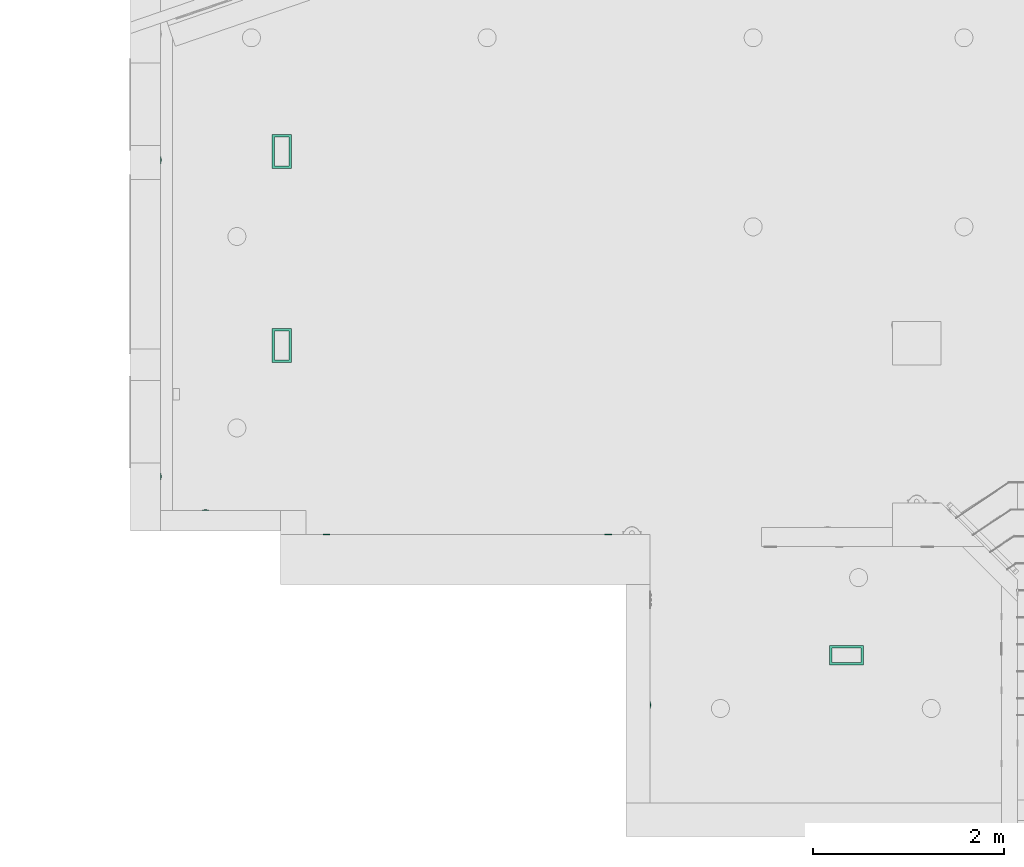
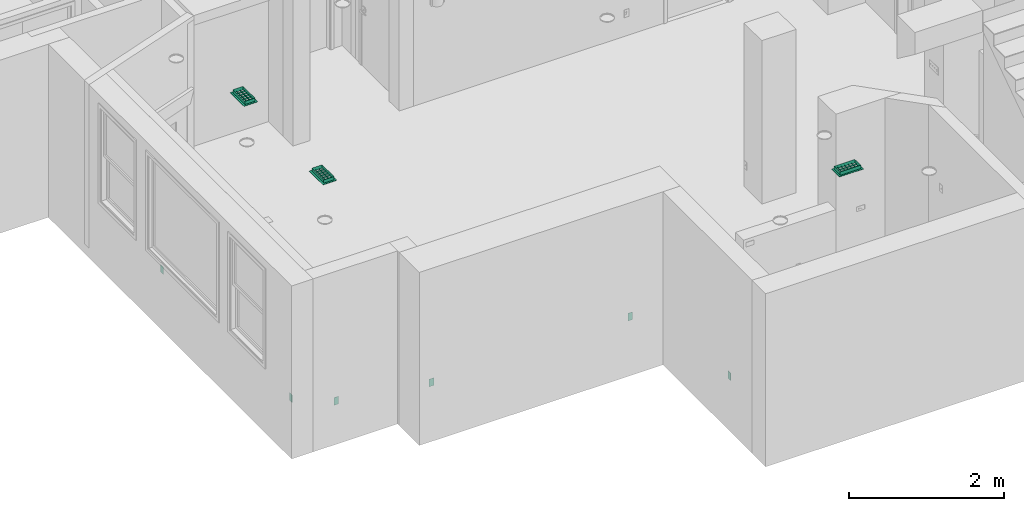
# One storey, part 3 of 48: 6 flow controllers, 3 distribution flow elements.
"""IFC2X3 building model written with IfcOpenShell, lengths in inches."""

import ifcopenshell
import ifcopenshell.guid

model = None  # the IFC model being written
_history = None  # IfcOwnerHistory: only IFC2X3 demands one
_inside = {}  # id of a spatial element -> (the spatial element, [elements in it])
_under = {}  # id of a project, library or spatial element -> (it, [spatial elements below it])
_declared = {}  # id of a project -> (the project, [libraries it declares])
_typed = {}  # id of a type object -> (the type object, [elements of that type])
_made_of = {}  # id of a material, layer set ... -> (it, [elements and type objects made of it])


def new_model(schema):
    """Start an empty IFC model of exactly this schema.

    Asked for "IFC4X3", IfcOpenShell would pick the latest addendum, in which some entities
    have other attributes; the version numbers below select the first issue.
    IFC2X3 requires an IfcOwnerHistory on every rooted entity: one is made here for all.
    """
    global model, _history
    if schema == "IFC4X3":
        model = ifcopenshell.file(schema_version=(4, 3, 0, 0))
    else:
        model = ifcopenshell.file(schema=schema)
    _inside.clear()
    _under.clear()
    _declared.clear()
    _typed.clear()
    _made_of.clear()
    _history = None
    if model.schema == "IFC2X3":
        org = make("IfcOrganization", Name="unknown")
        user = make(
            "IfcPersonAndOrganization",
            ThePerson=make("IfcPerson", FamilyName="unknown"),
            TheOrganization=org,
        )
        app = make(
            "IfcApplication",
            ApplicationDeveloper=org,
            Version="unknown",
            ApplicationFullName="unknown",
            ApplicationIdentifier="unknown",
        )
        _history = make(
            "IfcOwnerHistory",
            OwningUser=user,
            OwningApplication=app,
            ChangeAction="ADDED",
            CreationDate=0,
        )
    return model


def make(cls, **values):
    """One entity of the class cls with the attributes given. An attribute that is None is left unset."""
    return model.create_entity(
        cls, **{name: value for name, value in values.items() if value is not None}
    )


def entity(cls, *values):
    """Any entity or typed value of the class cls, its attributes in the order of the schema. None: left unset."""
    e = model.create_entity(cls)
    for i, value in enumerate(values):
        if value is not None:
            e[i] = value
    return e


def rooted(cls, **values):
    """An entity with a GlobalId (a new one), such as an element, a storey or a relation."""
    return make(cls, GlobalId=ifcopenshell.guid.new(), OwnerHistory=_history, **values)


def si_unit(unit_type, name, prefix=None):
    """IfcSIUnit, for example si_unit("LENGTHUNIT", "METRE", prefix="MILLI")."""
    return make("IfcSIUnit", UnitType=unit_type, Prefix=prefix, Name=name)


def converted_unit(unit_type, name, factor, base, dimensions=None, offset=None):
    """IfcConversionBasedUnit, such as the inch: factor (a typed value) times the base unit."""
    return make(
        "IfcConversionBasedUnit"
        if offset is None
        else "IfcConversionBasedUnitWithOffset",
        ConversionOffset=offset,
        Dimensions=None
        if dimensions is None
        else entity("IfcDimensionalExponents", *dimensions),
        UnitType=unit_type,
        Name=name,
        ConversionFactor=make(
            "IfcMeasureWithUnit", ValueComponent=factor, UnitComponent=base
        ),
    )


def derived_unit(unit_type, elements):
    """IfcDerivedUnit: a product of units, each with its exponent."""
    return make(
        "IfcDerivedUnit",
        Elements=[
            make("IfcDerivedUnitElement", Unit=unit, Exponent=power)
            for unit, power in elements
        ],
        UnitType=unit_type,
    )


def money_unit(currency):
    """IfcMonetaryUnit."""
    return make("IfcMonetaryUnit", Currency=currency)


def assignment(units):
    """IfcUnitAssignment: the units of a project."""
    return None if units is None else make("IfcUnitAssignment", Units=units)


def point(xyz):
    """IfcCartesianPoint."""
    return None if xyz is None else make("IfcCartesianPoint", Coordinates=xyz)


def direction(xyz):
    """IfcDirection."""
    return None if xyz is None else make("IfcDirection", DirectionRatios=xyz)


def frame(location, z_axis=None, x_axis=None):
    """IfcAxis2Placement3D, a coordinate frame: its origin and axes. An axis left out is left unset."""
    return make(
        "IfcAxis2Placement3D",
        Location=point(location),
        Axis=direction(z_axis),
        RefDirection=direction(x_axis),
    )


def origin_with_axes():
    """The frame at (0, 0, 0) with the z axis (0, 0, 1) and the x axis (1, 0, 0) written out."""
    return frame((0.0, 0.0, 0.0), z_axis=(0.0, 0.0, 1.0), x_axis=(1.0, 0.0, 0.0))


def place(relative_to, where):
    """IfcLocalPlacement: puts the frame where relative to a parent placement (None: the world)."""
    return make(
        "IfcLocalPlacement", PlacementRelTo=relative_to, RelativePlacement=where
    )


def context(
    kind, dimensions, precision=None, world=None, true_north=None, identifier=None
):
    """IfcGeometricRepresentationContext, for example the 3D "Model" context."""
    return make(
        "IfcGeometricRepresentationContext",
        ContextIdentifier=identifier,
        ContextType=kind,
        CoordinateSpaceDimension=dimensions,
        Precision=precision,
        WorldCoordinateSystem=world,
        TrueNorth=true_north,
    )


def subcontext(parent, identifier, kind, view, scale=None):
    """IfcGeometricRepresentationSubContext, for example "Body" below "Model"."""
    return make(
        "IfcGeometricRepresentationSubContext",
        ContextIdentifier=identifier,
        ContextType=kind,
        ParentContext=parent,
        TargetScale=scale,
        TargetView=view,
    )


def project(units=None, contexts=None):
    """IfcProject with its units and contexts."""
    return rooted(
        "IfcProject",
        Name="project",
        RepresentationContexts=contexts,
        UnitsInContext=assignment(units),
    )


def spatial(cls, under=None, at=None, **own):
    """A site, building, storey or space (cls), placed at a placement, below another one or the project."""
    s = rooted(cls, ObjectPlacement=at, **own)
    if under is not None:
        _under.setdefault(under.id(), (under, []))[1].append(s)
    return s


def faces_of(points, faces, orient=None, outer=None):
    """IfcFace entities. A face is a list of loops; a loop is a list of indices into points, from 0.

    orient and outer hold one flag for each loop. By default every Orientation is true, the
    first loop of a face is its IfcFaceOuterBound and the others are IfcFaceBound.
    """
    made = []
    for i, loops in enumerate(faces):
        bounds = []
        for j, loop in enumerate(loops):
            is_outer = j == 0 if outer is None else outer[i][j]
            bounds.append(
                make(
                    "IfcFaceOuterBound" if is_outer else "IfcFaceBound",
                    Bound=make("IfcPolyLoop", Polygon=[points[k] for k in loop]),
                    Orientation=True if orient is None else orient[i][j],
                )
            )
        made.append(make("IfcFace", Bounds=bounds))
    return made


def open_shell(faces, orient=None, outer=None):
    """The faces of one IfcOpenShell. surface_model builds it on its shared points."""
    return ("IfcOpenShell", faces, orient, outer)


def faceted_brep(points, faces, orient=None, outer=None, voids=None):
    """IfcFacetedBrep: a solid bounded by flat faces; with voids (closed shells), ...WithVoids."""
    shared = [point(p) for p in points]
    hull = make("IfcClosedShell", CfsFaces=faces_of(shared, faces, orient, outer))
    if voids is None:
        return make("IfcFacetedBrep", Outer=hull)
    return make(
        "IfcFacetedBrepWithVoids",
        Outer=hull,
        Voids=[
            make(cls, CfsFaces=faces_of(shared, fs, o, b)) for cls, fs, o, b in voids
        ],
    )


def surface_model(cls, points, shells):
    """IfcFaceBasedSurfaceModel or IfcShellBasedSurfaceModel (cls): surfaces that need not close."""
    shared = [point(p) for p in points]
    made = [make(c, CfsFaces=faces_of(shared, fs, o, b)) for c, fs, o, b in shells]
    if cls == "IfcFaceBasedSurfaceModel":
        return make(cls, FbsmFaces=made)
    return make(cls, SbsmBoundary=made)


def shape(context_of_items, identifier, shape_type, items):
    """IfcShapeRepresentation: the items that make up one representation, for example the "Body"."""
    return make(
        "IfcShapeRepresentation",
        ContextOfItems=context_of_items,
        RepresentationIdentifier=identifier,
        RepresentationType=shape_type,
        Items=items,
    )


def source(mapping_origin, context_of_items, identifier, shape_type, items):
    """IfcRepresentationMap: a shape defined once, which mapped items show again and again."""
    return make(
        "IfcRepresentationMap",
        MappingOrigin=mapping_origin,
        MappedRepresentation=shape(context_of_items, identifier, shape_type, items),
    )


def transform(
    local_origin,
    x_axis=None,
    y_axis=None,
    z_axis=None,
    scale=None,
    scale2=None,
    scale3=None,
    uniform=True,
):
    """IfcCartesianTransformationOperator3D, or its non-uniform kind. x_axis, y_axis, z_axis: its Axis1, 2, 3."""
    if uniform:
        return make(
            "IfcCartesianTransformationOperator3D",
            Axis1=direction(x_axis),
            Axis2=direction(y_axis),
            LocalOrigin=point(local_origin),
            Scale=scale,
            Axis3=direction(z_axis),
        )
    return make(
        "IfcCartesianTransformationOperator3DnonUniform",
        Axis1=direction(x_axis),
        Axis2=direction(y_axis),
        LocalOrigin=point(local_origin),
        Scale=scale,
        Axis3=direction(z_axis),
        Scale2=scale2,
        Scale3=scale3,
    )


def mapped(mapping_source, mapping_target):
    """IfcMappedItem: shows the shape of a source again, moved by a transform."""
    return make(
        "IfcMappedItem", MappingSource=mapping_source, MappingTarget=mapping_target
    )


def made_of(thing, what):
    """Note that an element or type object is made of a material, layer set ...; save() writes the relation."""
    if what is not None:
        _made_of.setdefault(what.id(), (what, []))[1].append(thing)
    return thing


def type_object(cls, material=None, **own):
    """A type object (cls), such as IfcWallType, which elements share."""
    return made_of(rooted(cls, **own), material)


def element(
    cls,
    number,
    at=None,
    inside=None,
    cuts=None,
    type_object=None,
    material=None,
    context=None,
    identifier="Body",
    shape_type=None,
    held_by="IfcProductDefinitionShape",
    body=None,
    shapes=None,
    **own,
):
    """One element of the class cls, such as IfcWall. Its Tag is "e" and its number.

    at: its placement. inside: the storey or other place that contains it. cuts: it is an
    opening in that element (IfcRelVoidsElement). A single representation is given by context,
    identifier, shape_type and body (its items); several are given by shapes. held_by: the class
    of the entity that holds the representations. save() writes the other relations.
    """
    e = rooted(cls, Tag="e%d" % number, ObjectPlacement=at, **own)
    if body is not None:
        shapes = [shape(context, identifier, shape_type, body)]
    if shapes is not None:
        e.Representation = make(held_by, Representations=shapes)
    if inside is not None:
        _inside.setdefault(inside.id(), (inside, []))[1].append(e)
    if cuts is not None:
        rooted(
            "IfcRelVoidsElement", RelatingBuildingElement=cuts, RelatedOpeningElement=e
        )
    if type_object is not None:
        _typed.setdefault(type_object.id(), (type_object, []))[1].append(e)
    return made_of(e, material)


def aggregate(whole, parts):
    """IfcRelAggregates: a whole, such as a stair, and the parts it consists of."""
    return rooted("IfcRelAggregates", RelatingObject=whole, RelatedObjects=parts)


def save(model, path):
    """Write the relations noted so far, then the file.

    IfcRelAggregates (storeys below a building ...), IfcRelContainedInSpatialStructure (elements
    in a storey), IfcRelDefinesByType, IfcRelAssociatesMaterial and IfcRelDeclares: one each for
    every whole, place, type object, material and project.
    """
    for whole, parts in _under.values():
        aggregate(whole, parts)
    for where, things in _inside.values():
        rooted(
            "IfcRelContainedInSpatialStructure",
            RelatedElements=things,
            RelatingStructure=where,
        )
    for kind, things in _typed.values():
        rooted("IfcRelDefinesByType", RelatedObjects=things, RelatingType=kind)
    for what, things in _made_of.values():
        rooted("IfcRelAssociatesMaterial", RelatedObjects=things, RelatingMaterial=what)
    for by, libraries in _declared.values():
        rooted("IfcRelDeclares", RelatingContext=by, RelatedDefinitions=libraries)
    model.write(path)


model = new_model("IFC2X3")

# Units and contexts
model_context = context("Model", 3, precision=0.00039370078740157, world=origin_with_axes(), true_north=direction((0.0, 1.0)))
plan_context = context("Plan", 3, precision=0.00039370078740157, world=origin_with_axes(), true_north=direction((0.0, 1.0)))
body_context = subcontext(model_context, "Body", "Model", "MODEL_VIEW")
ifc_project = project(units=[converted_unit("LENGTHUNIT", "INCH", entity("IfcPositiveLengthMeasure", 0.0254), si_unit("LENGTHUNIT", "METRE"), dimensions=[1, 0, 0, 0, 0, 0, 0]), converted_unit("AREAUNIT", "SQUARE_FOOT", entity("IfcPositiveLengthMeasure", 0.09290304), si_unit("AREAUNIT", "SQUARE_METRE"), dimensions=[2, 0, 0, 0, 0, 0, 0]), si_unit("PLANEANGLEUNIT", "RADIAN"), si_unit("SOLIDANGLEUNIT", "STERADIAN"), money_unit("USD"), converted_unit("TIMEUNIT", "Year", entity("IfcTimeMeasure", 31557600.0), si_unit("TIMEUNIT", "SECOND"), dimensions=[0, 0, 1, 0, 0, 0, 0]), si_unit("MASSUNIT", "GRAM", prefix="KILO"), si_unit("THERMODYNAMICTEMPERATUREUNIT", "DEGREE_CELSIUS"), si_unit("LUMINOUSINTENSITYUNIT", "LUMEN"), si_unit("ENERGYUNIT", "JOULE", prefix="MEGA"), derived_unit("SPECIFICHEATCAPACITYUNIT", [(si_unit("ENERGYUNIT", "JOULE"), 1), (si_unit("MASSUNIT", "GRAM", prefix="KILO"), -1), (si_unit("THERMODYNAMICTEMPERATUREUNIT", "KELVIN"), -1)])], contexts=[model_context, plan_context])

# Site, building, storey
site_placement = place(None, origin_with_axes())
site = spatial("IfcSite", under=ifc_project, at=site_placement, Name="Site", CompositionType="ELEMENT")
building_placement = place(site_placement, origin_with_axes())
building = spatial("IfcBuilding", under=site, at=building_placement, Name="Building", CompositionType="ELEMENT")
storey_placement = place(building_placement, origin_with_axes())
storey = spatial("IfcBuildingStorey", under=building, at=storey_placement, Name="First Floor", CompositionType="ELEMENT", Elevation=0.0)

# Distribution flow elements
valve_type = type_object("IfcValveType", Name="Ceiling Grille", PredefinedType="NOTDEFINED")
shared_shape_1 = source(origin_with_axes(), body_context, "Body", "SurfaceModel", [
    faceted_brep([(6.99987696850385, 3.999876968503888, -0.196850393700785), (-6.99987696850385, 3.999876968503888, -0.196850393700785), (-6.99987696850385, 3.999876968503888, 0.0), (6.99987696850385, 3.999876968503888, 0.0), (6.99987696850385, -3.999876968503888, -0.196850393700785), (-6.99987696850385, -3.999876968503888, -0.196850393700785), (6.015624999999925, 3.015624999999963, -0.196850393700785), (-6.015624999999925, 3.015624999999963, -0.196850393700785), (-6.015624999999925, -3.015624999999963, -0.196850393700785), (6.015624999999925, -3.015624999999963, -0.196850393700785), (-6.99987696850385, -3.999876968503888, 0.0), (6.99987696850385, -3.999876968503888, 0.0), (6.015624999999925, 3.015624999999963, 0.0), (6.015624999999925, -3.015624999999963, 0.0), (-6.015624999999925, -3.015624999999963, 0.0), (-6.015624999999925, 3.015624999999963, 0.0)], [[[0, 1, 2, 3]], [[0, 4, 5, 1], [6, 7, 8, 9]], [[1, 5, 10, 2]], [[3, 2, 10, 11], [12, 13, 14, 15]], [[4, 0, 3, 11]], [[5, 4, 11, 10]], [[7, 6, 12, 15]], [[8, 7, 15, 14]], [[9, 8, 14, 13]], [[6, 9, 13, 12]]]),
    surface_model("IfcShellBasedSurfaceModel", [(-5.976254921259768, 2.999999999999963, -0.196850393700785), (5.976254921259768, 2.999999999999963, -0.196850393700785), (5.976254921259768, 2.999999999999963, 0.78740157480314), (-5.976254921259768, 2.999999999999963, 0.78740157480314)], [open_shell([[[0, 1, 2, 3]]])]),
    surface_model("IfcShellBasedSurfaceModel", [(-5.976254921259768, 0.9999999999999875, -0.196850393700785), (5.976254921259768, 0.9999999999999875, -0.196850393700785), (5.976254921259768, 0.9999999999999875, 0.78740157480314), (-5.976254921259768, 0.9999999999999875, 0.78740157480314)], [open_shell([[[0, 1, 2, 3]]])]),
    surface_model("IfcShellBasedSurfaceModel", [(-5.976254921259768, -0.999999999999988, -0.196850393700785), (5.976254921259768, -0.999999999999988, -0.196850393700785), (5.976254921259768, -0.999999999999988, 0.78740157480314), (-5.976254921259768, -0.999999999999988, 0.78740157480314)], [open_shell([[[0, 1, 2, 3]]])]),
    surface_model("IfcShellBasedSurfaceModel", [(-5.976254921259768, -2.999999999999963, -0.196850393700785), (5.976254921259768, -2.999999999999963, -0.196850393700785), (5.976254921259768, -2.999999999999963, 0.78740157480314), (-5.976254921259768, -2.999999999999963, 0.78740157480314)], [open_shell([[[0, 1, 2, 3]]])]),
    surface_model("IfcShellBasedSurfaceModel", [(5.999999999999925, -2.976254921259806, -0.196850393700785), (5.999999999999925, 2.976254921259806, -0.196850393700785), (5.999999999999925, 2.976254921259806, 0.78740157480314), (5.999999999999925, -2.976254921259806, 0.78740157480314)], [open_shell([[[0, 1, 2, 3]]])]),
    surface_model("IfcShellBasedSurfaceModel", [(3.99999999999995, -2.976254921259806, -0.196850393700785), (3.999999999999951, 2.976254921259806, -0.196850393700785), (3.999999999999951, 2.976254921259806, 0.78740157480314), (3.99999999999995, -2.976254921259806, 0.78740157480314)], [open_shell([[[0, 1, 2, 3]]])]),
    surface_model("IfcShellBasedSurfaceModel", [(1.999999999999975, -2.976254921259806, -0.196850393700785), (1.999999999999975, 2.976254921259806, -0.196850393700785), (1.999999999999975, 2.976254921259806, 0.78740157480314), (1.999999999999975, -2.976254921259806, 0.78740157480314)], [open_shell([[[0, 1, 2, 3]]])]),
    surface_model("IfcShellBasedSurfaceModel", [(0.0, -2.976254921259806, -0.196850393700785), (0.0, 2.976254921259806, -0.196850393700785), (0.0, 2.976254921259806, 0.78740157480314), (0.0, -2.976254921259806, 0.78740157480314)], [open_shell([[[0, 1, 2, 3]]])]),
    surface_model("IfcShellBasedSurfaceModel", [(-1.999999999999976, -2.976254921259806, -0.196850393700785), (-1.999999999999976, 2.976254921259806, -0.196850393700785), (-1.999999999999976, 2.976254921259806, 0.78740157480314), (-1.999999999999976, -2.976254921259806, 0.78740157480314)], [open_shell([[[0, 1, 2, 3]]])]),
    surface_model("IfcShellBasedSurfaceModel", [(-3.999999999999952, -2.976254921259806, -0.196850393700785), (-3.999999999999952, 2.976254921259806, -0.196850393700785), (-3.999999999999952, 2.976254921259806, 0.78740157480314), (-3.999999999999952, -2.976254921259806, 0.78740157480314)], [open_shell([[[0, 1, 2, 3]]])]),
    surface_model("IfcShellBasedSurfaceModel", [(-5.999999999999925, -2.976254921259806, -0.196850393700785), (-5.999999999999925, 2.976254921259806, -0.196850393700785), (-5.999999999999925, 2.976254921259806, 0.78740157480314), (-5.999999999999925, -2.976254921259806, 0.78740157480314)], [open_shell([[[0, 1, 2, 3]]])]),
    surface_model("IfcShellBasedSurfaceModel", [(6.015624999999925, -3.015624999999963, 0.0), (6.015624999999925, 3.015624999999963, 0.0), (6.015624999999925, 3.015624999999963, 1.999999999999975), (6.015624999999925, -3.015624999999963, 1.999999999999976), (-6.015624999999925, 3.015624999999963, 0.0), (-6.015624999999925, 3.015624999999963, 1.999999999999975), (-6.015624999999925, -3.015624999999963, 0.0), (-6.015624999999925, -3.015624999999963, 1.999999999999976)], [open_shell([[[0, 1, 2, 3]], [[1, 4, 5, 2]], [[6, 0, 3, 7]], [[4, 6, 7, 5]]])]),
])
for number, where, z_axis, x_axis, name in (
    (1, (91.00565109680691, 74.74237204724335, 100.9999999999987), (0.0, 0.0, 1.0), (1.0, 0.0, 0.0), "FU - 013"),
    (2, (-141.9945155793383, 282.507627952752, 100.9999999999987), (0.0, 0.0, 1.0), (0.0, -1.0, 0.0), "FU - 013"),
    (3, (-141.9945155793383, 202.5072588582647, 100.9999999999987), (0.0, 0.0, 1.0), (0.0, -1.0, 0.0), "FU - 013"),
):
    element("IfcDistributionFlowElement", number, at=place(storey_placement, frame(where, z_axis=z_axis, x_axis=x_axis)), inside=storey, type_object=valve_type, Name=name, context=body_context, shape_type="MappedRepresentation", body=[
        mapped(shared_shape_1, transform((0.0, 0.0, 0.0))),
    ])

# Flow controllers
switching_device_type = type_object("IfcSwitchingDeviceType", Name="Outlet 1 US", PredefinedType="NOTDEFINED")
shared_shape_2 = source(origin_with_axes(), body_context, "Body", "Brep", [
    faceted_brep([(0.39370078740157, -0.03444881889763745, -1.18110236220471), (0.5436477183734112, -0.03444881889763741, -0.7086614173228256), (0.5436477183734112, -0.2165354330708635, -0.7086614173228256), (0.39370078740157, -0.2165354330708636, -1.18110236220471), (-0.3937007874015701, -0.03444881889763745, -1.181102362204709), (-0.543647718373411, -0.03444881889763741, -0.7086614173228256), (-0.39370078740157, -0.03444881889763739, -0.2362204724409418), (0.3937007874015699, -0.03444881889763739, -0.2362204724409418), (-0.196850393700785, -0.03444881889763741, -0.7086614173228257), (-0.196850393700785, -0.0344488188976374, -0.4724409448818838), (-0.275590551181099, -0.0344488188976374, -0.4724409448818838), (-0.275590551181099, -0.03444881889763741, -0.7086614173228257), (0.196850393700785, -0.03444881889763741, -0.7086614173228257), (0.275590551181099, -0.03444881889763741, -0.7086614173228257), (0.275590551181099, -0.0344488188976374, -0.4724409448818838), (0.196850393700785, -0.0344488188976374, -0.4724409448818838), (-0.078740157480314, -0.03444881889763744, -1.102362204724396), (0.078740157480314, -0.03444881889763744, -1.102362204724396), (0.078740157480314, -0.03444881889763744, -1.023622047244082), (0.06819097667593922, -0.03444881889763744, -0.9842519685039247), (0.03937007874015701, -0.03444881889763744, -0.9554310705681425), (0.0, -0.03444881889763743, -0.9448818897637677), (-0.03937007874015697, -0.03444881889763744, -0.9554310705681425), (-0.06819097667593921, -0.03444881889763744, -0.9842519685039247), (-0.078740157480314, -0.03444881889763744, -1.023622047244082), (0.3937007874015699, -0.2165354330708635, -0.2362204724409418), (-0.39370078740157, -0.2165354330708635, -0.2362204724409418), (-0.543647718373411, -0.2165354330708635, -0.7086614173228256), (-0.3937007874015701, -0.2165354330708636, -1.181102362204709), (-0.196850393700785, -0.2165354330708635, -0.7086614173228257), (-0.275590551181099, -0.2165354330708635, -0.7086614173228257), (-0.275590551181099, -0.2165354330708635, -0.4724409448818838), (-0.196850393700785, -0.2165354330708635, -0.4724409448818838), (0.196850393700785, -0.2165354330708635, -0.7086614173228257), (0.196850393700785, -0.2165354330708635, -0.4724409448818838), (0.275590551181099, -0.2165354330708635, -0.4724409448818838), (0.275590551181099, -0.2165354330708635, -0.7086614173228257), (-0.078740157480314, -0.2165354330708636, -1.102362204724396), (-0.078740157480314, -0.2165354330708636, -1.023622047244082), (-0.06819097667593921, -0.2165354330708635, -0.9842519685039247), (-0.03937007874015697, -0.2165354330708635, -0.9554310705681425), (0.0, -0.2165354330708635, -0.9448818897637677), (0.03937007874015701, -0.2165354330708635, -0.9554310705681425), (0.06819097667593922, -0.2165354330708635, -0.9842519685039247), (0.078740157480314, -0.2165354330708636, -1.023622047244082), (0.078740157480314, -0.2165354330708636, -1.102362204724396)], [[[0, 1, 2, 3]], [[0, 4, 5, 6, 7, 1], [8, 9, 10, 11], [12, 13, 14, 15], [16, 17, 18, 19, 20, 21, 22, 23, 24]], [[1, 7, 25, 2]], [[3, 2, 25, 26, 27, 28], [29, 30, 31, 32], [33, 34, 35, 36], [37, 38, 39, 40, 41, 42, 43, 44, 45]], [[4, 0, 3, 28]], [[5, 4, 28, 27]], [[6, 5, 27, 26]], [[7, 6, 26, 25]], [[9, 8, 29, 32]], [[10, 9, 32, 31]], [[11, 10, 31, 30]], [[8, 11, 30, 29]], [[13, 12, 33, 36]], [[14, 13, 36, 35]], [[15, 14, 35, 34]], [[12, 15, 34, 33]], [[17, 16, 37, 45]], [[18, 17, 45, 44]], [[19, 18, 44, 43]], [[20, 19, 43, 42]], [[21, 20, 42, 41]], [[22, 21, 41, 40]], [[23, 22, 40, 39]], [[24, 23, 39, 38]], [[16, 24, 38, 37]]]),
    faceted_brep([(0.39370078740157, -0.03444881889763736, 0.2362204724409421), (0.5436477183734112, -0.03444881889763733, 0.7086614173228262), (0.5436477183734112, -0.2165354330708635, 0.7086614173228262), (0.39370078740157, -0.2165354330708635, 0.2362204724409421), (-0.3937007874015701, -0.03444881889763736, 0.2362204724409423), (-0.543647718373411, -0.03444881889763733, 0.7086614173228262), (-0.39370078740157, -0.0344488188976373, 1.18110236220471), (0.3937007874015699, -0.0344488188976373, 1.18110236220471), (-0.196850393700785, -0.03444881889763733, 0.7086614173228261), (-0.196850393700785, -0.03444881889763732, 0.944881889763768), (-0.275590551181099, -0.03444881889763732, 0.944881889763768), (-0.275590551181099, -0.03444881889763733, 0.7086614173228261), (0.196850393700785, -0.03444881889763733, 0.7086614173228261), (0.275590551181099, -0.03444881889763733, 0.7086614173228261), (0.275590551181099, -0.03444881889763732, 0.944881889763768), (0.196850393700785, -0.03444881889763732, 0.944881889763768), (-0.078740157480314, -0.03444881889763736, 0.3149606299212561), (0.078740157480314, -0.03444881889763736, 0.3149606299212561), (0.078740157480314, -0.03444881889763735, 0.3937007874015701), (0.06819097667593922, -0.03444881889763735, 0.4330708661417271), (0.03937007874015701, -0.03444881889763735, 0.4618917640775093), (0.0, -0.03444881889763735, 0.472440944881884), (-0.03937007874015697, -0.03444881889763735, 0.4618917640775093), (-0.06819097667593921, -0.03444881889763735, 0.4330708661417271), (-0.078740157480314, -0.03444881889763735, 0.3937007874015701), (0.3937007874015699, -0.2165354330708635, 1.18110236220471), (-0.39370078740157, -0.2165354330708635, 1.18110236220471), (-0.543647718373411, -0.2165354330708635, 0.7086614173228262), (-0.3937007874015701, -0.2165354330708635, 0.2362204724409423), (-0.196850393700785, -0.2165354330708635, 0.7086614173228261), (-0.275590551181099, -0.2165354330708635, 0.7086614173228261), (-0.275590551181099, -0.2165354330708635, 0.944881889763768), (-0.196850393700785, -0.2165354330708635, 0.944881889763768), (0.196850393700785, -0.2165354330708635, 0.7086614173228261), (0.196850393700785, -0.2165354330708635, 0.944881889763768), (0.275590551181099, -0.2165354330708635, 0.944881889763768), (0.275590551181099, -0.2165354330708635, 0.7086614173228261), (-0.078740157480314, -0.2165354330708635, 0.3149606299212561), (-0.078740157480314, -0.2165354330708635, 0.3937007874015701), (-0.06819097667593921, -0.2165354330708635, 0.4330708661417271), (-0.03937007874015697, -0.2165354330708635, 0.4618917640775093), (0.0, -0.2165354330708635, 0.472440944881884), (0.03937007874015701, -0.2165354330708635, 0.4618917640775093), (0.06819097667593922, -0.2165354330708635, 0.4330708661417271), (0.078740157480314, -0.2165354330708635, 0.3937007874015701), (0.078740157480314, -0.2165354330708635, 0.3149606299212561)], [[[0, 1, 2, 3]], [[0, 4, 5, 6, 7, 1], [8, 9, 10, 11], [12, 13, 14, 15], [16, 17, 18, 19, 20, 21, 22, 23, 24]], [[1, 7, 25, 2]], [[3, 2, 25, 26, 27, 28], [29, 30, 31, 32], [33, 34, 35, 36], [37, 38, 39, 40, 41, 42, 43, 44, 45]], [[4, 0, 3, 28]], [[5, 4, 28, 27]], [[6, 5, 27, 26]], [[7, 6, 26, 25]], [[9, 8, 29, 32]], [[10, 9, 32, 31]], [[11, 10, 31, 30]], [[8, 11, 30, 29]], [[13, 12, 33, 36]], [[14, 13, 36, 35]], [[15, 14, 35, 34]], [[12, 15, 34, 33]], [[17, 16, 37, 45]], [[18, 17, 45, 44]], [[19, 18, 44, 43]], [[20, 19, 43, 42]], [[21, 20, 42, 41]], [[22, 21, 41, 40]], [[23, 22, 40, 39]], [[24, 23, 39, 38]], [[16, 24, 38, 37]]]),
    faceted_brep([(-1.343503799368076, -0.1377952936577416, -2.327755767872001), (1.343503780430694, -0.1377952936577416, -2.327755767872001), (1.343503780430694, -0.1377952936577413, 2.327755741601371), (-1.343503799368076, -0.1377952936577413, 2.327755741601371), (0.39370078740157, -0.1377952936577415, -1.18110236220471), (-0.3937007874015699, -0.1377952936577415, -1.181102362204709), (-0.5436477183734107, -0.1377952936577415, -0.7086614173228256), (-0.39370078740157, -0.1377952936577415, -0.2362204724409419), (0.3937007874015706, -0.1377952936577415, -0.2362204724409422), (0.5436477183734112, -0.1377952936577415, -0.7086614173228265), (-0.39370078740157, -0.1377952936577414, 1.18110236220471), (0.3937007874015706, -0.1377952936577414, 1.18110236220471), (0.5436477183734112, -0.1377952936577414, 0.7086614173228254), (0.39370078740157, -0.1377952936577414, 0.236220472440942), (-0.3937007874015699, -0.1377952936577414, 0.2362204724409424), (-0.5436477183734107, -0.1377952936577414, 0.7086614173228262), (-1.352419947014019, -0.1366214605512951, -2.336671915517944), (1.352419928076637, -0.1366214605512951, -2.336671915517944), (1.352419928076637, -0.1366214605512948, 2.336671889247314), (-1.352419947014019, -0.1366214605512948, 2.336671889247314), (0.39370078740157, -0.03444881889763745, -1.18110236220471), (-0.3937007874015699, -0.03444881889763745, -1.181102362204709), (-0.5436477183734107, -0.03444881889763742, -0.7086614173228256), (-0.39370078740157, -0.03444881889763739, -0.2362204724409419), (0.3937007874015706, -0.03444881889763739, -0.2362204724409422), (0.5436477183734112, -0.03444881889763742, -0.7086614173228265), (-0.39370078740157, -0.0344488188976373, 1.18110236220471), (0.3937007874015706, -0.0344488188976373, 1.18110236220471), (0.5436477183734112, -0.03444881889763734, 0.7086614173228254), (0.39370078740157, -0.03444881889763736, 0.236220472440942), (-0.3937007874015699, -0.03444881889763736, 0.2362204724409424), (-0.5436477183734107, -0.03444881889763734, 0.7086614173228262), (-1.36786294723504, -0.1277054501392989, -2.352114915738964), (1.367862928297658, -0.1277054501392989, -2.352114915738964), (1.367862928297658, -0.1277054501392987, 2.352114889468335), (-1.36786294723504, -0.1277054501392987, 2.352114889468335), (-1.376778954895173, -0.1122624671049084, -2.361030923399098), (1.376778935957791, -0.1122624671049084, -2.361030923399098), (1.376778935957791, -0.1122624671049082, 2.361030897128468), (-1.376778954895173, -0.1122624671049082, 2.361030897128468), (-1.377952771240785, -0.1033464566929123, -2.362204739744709), (1.377952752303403, -0.1033464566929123, -2.362204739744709), (1.377952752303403, -0.103346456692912, 2.36220471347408), (-1.377952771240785, -0.103346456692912, 2.36220471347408), (-1.377952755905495, 0.0, -2.36220472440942), (1.377952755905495, 0.0, -2.36220472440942), (1.377952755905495, 0.0, 2.36220472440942), (-1.377952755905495, 0.0, 2.36220472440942)], [[[0, 1, 2, 3], [4, 5, 6, 7, 8, 9], [10, 11, 12, 13, 14, 15]], [[1, 0, 16, 17]], [[2, 1, 17, 18]], [[3, 2, 18, 19]], [[0, 3, 19, 16]], [[4, 20, 21, 5]], [[5, 21, 22, 6]], [[6, 22, 23, 7]], [[7, 23, 24, 8]], [[8, 24, 25, 9]], [[9, 25, 20, 4]], [[11, 10, 26, 27]], [[12, 11, 27, 28]], [[13, 12, 28, 29]], [[14, 13, 29, 30]], [[15, 14, 30, 31]], [[10, 15, 31, 26]], [[17, 16, 32, 33]], [[18, 17, 33, 34]], [[19, 18, 34, 35]], [[16, 19, 35, 32]], [[22, 21, 20, 25, 24, 23]], [[28, 27, 26, 31, 30, 29]], [[33, 32, 36, 37]], [[34, 33, 37, 38]], [[35, 34, 38, 39]], [[32, 35, 39, 36]], [[37, 36, 40, 41]], [[38, 37, 41, 42]], [[39, 38, 42, 43]], [[36, 39, 43, 40]], [[41, 40, 44, 45]], [[42, 41, 45, 46]], [[43, 42, 46, 47]], [[40, 43, 47, 44]], [[46, 45, 44, 47]]]),
])
for number, where, z_axis, x_axis, name in (
    (4, (-123.4999999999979, 124.4999999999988, 13.99999999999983), (0.0, 0.0, 1.0), (-1.0, 0.0, 0.0), "FU - 029"),
    (5, (-7.253242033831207, 124.4999999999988, 13.99999999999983), (0.0, 0.0, 1.0), (-1.0, 0.0, 0.0), "FU - 029"),
    (6, (9.999999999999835, 54.24711095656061, 13.99999999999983), (0.0, 0.0, 1.0), (0.0, 1.0, 0.0), "FU - 029"),
    (7, (-192.0025126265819, 278.9961329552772, 13.99999999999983), (0.0, 0.0, 1.0), (0.0, 1.0, 0.0), "FU - 029"),
    (8, (-173.502512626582, 134.4999999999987, 13.99999999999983), (0.0, 0.0, 1.0), (-1.0, 0.0, 0.0), "FU - 029"),
    (9, (-192.0025126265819, 148.4999999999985, 13.99999999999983), (0.0, 0.0, 1.0), (0.0, 1.0, 0.0), "FU - 029"),
):
    element("IfcFlowController", number, at=place(storey_placement, frame(where, z_axis=z_axis, x_axis=x_axis)), inside=storey, type_object=switching_device_type, Name=name, context=body_context, shape_type="MappedRepresentation", body=[
        mapped(shared_shape_2, transform((0.0, 0.0, 0.0))),
    ])

save(model, "model.ifc")
